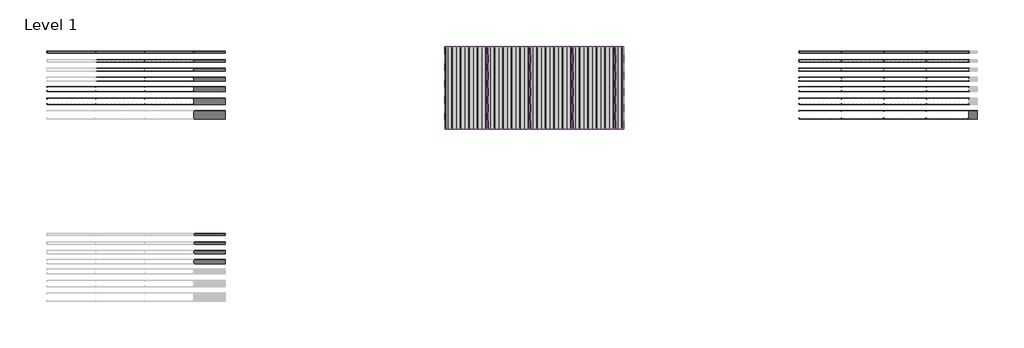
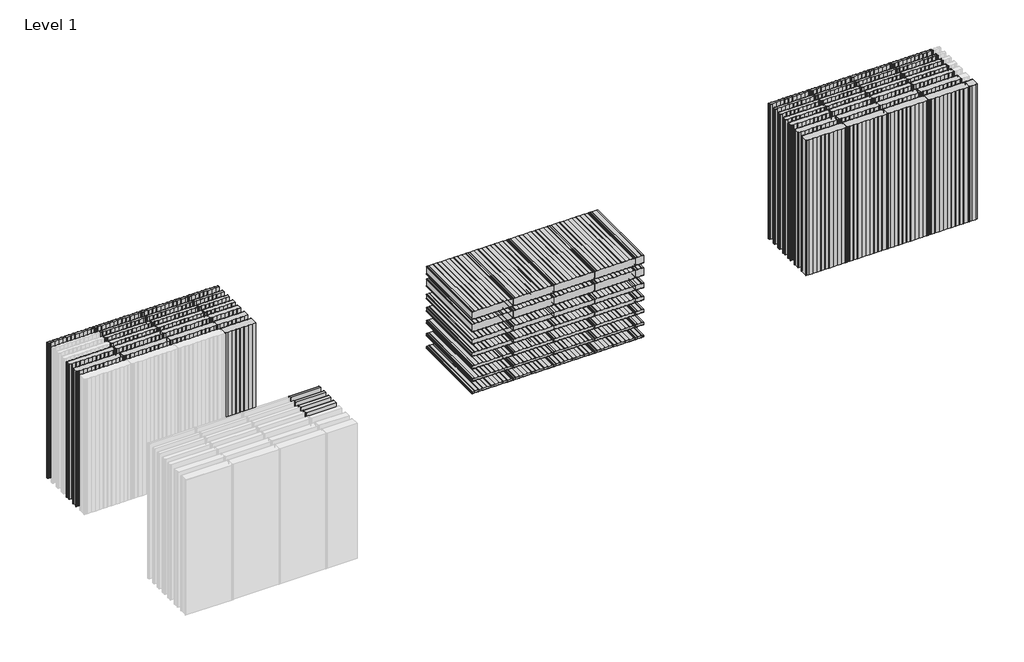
# One storey, part 3 of 4: 90 plates.
"""IFC4 building model written with IfcOpenShell, lengths in millimetres."""

from ifc_helpers import new_model, si_unit, origin, place, context, project, spatial, transform, mapped, element, save
from components import pm1_curtain_panel_flat_profile_af272a4a, pm1_curtain_panel_flat_profile_6bd34003, pm1_curtain_panel_flat_profile_68c07352, pm1_curtain_panel_flat_profile_2dd77cdb, pm1_curtain_panel_micro_ribbed_profile_733792b1, pm1_curtain_panel_micro_ribbed_profile_fbef5924, pm1_curtain_panel_micro_ribbed_profile_8efd6a00, pm1_curtain_panel_micro_ribbed_profile_3c703dab, pm1_curtain_panel_micro_ribbed_profile_60066d41, pm1_curtain_panel_micro_ribbed_profile_9ff300b7, pm1_curtain_panel_micro_ribbed_profile_67889fbb, pm1_curtain_panel_micro_ribbed_profile_119ddfce, pm1_curtain_panel_micro_ribbed_profile_324b2d25, pm1_curtain_panel_micro_ribbed_profile_bbc1dd99, pm1_curtain_panel_micro_ribbed_profile_832396b1, pm1_curtain_panel_micro_ribbed_profile_27170c41, pm1_curtain_panel_micro_ribbed_profile_ae8438e2, pmh_curtain_panel_micro_ribbed_profile_801c5321, pmh_curtain_panel_micro_ribbed_profile_5b7a0303, pmh_curtain_panel_micro_ribbed_profile_ddb1c74e, pmh_curtain_panel_micro_ribbed_profile_5782b2c2, pmh_curtain_panel_micro_ribbed_profile_d289c41b, pmh_curtain_panel_micro_ribbed_profile_9b3bcd1a, pmh_curtain_panel_micro_ribbed_profile_f908c7d4, pmh_curtain_panel_micro_ribbed_profile_7a617ee0, pmh_curtain_panel_micro_ribbed_profile_ae988a4b, pmh_curtain_panel_micro_ribbed_profile_f6724502, pmh_curtain_panel_micro_ribbed_profile_33a01f13, pmh_curtain_panel_micro_ribbed_profile_93146dc1, pmh_curtain_panel_micro_ribbed_profile_620c4970, pmh_curtain_panel_micro_ribbed_profile_8637e428, pmh_curtain_panel_micro_ribbed_profile_348d47a5, pmh_curtain_panel_micro_ribbed_profile_c90d581f, pmh_curtain_panel_micro_ribbed_profile_a05da92a, pmh_curtain_panel_micro_ribbed_profile_125e0a23, pmh_curtain_panel_micro_ribbed_profile_0eaa641f, pmh_curtain_panel_micro_ribbed_profile_aedbf398

model = new_model("IFC4")

# Units and contexts
model_context = context("Model", 3, world=origin())
ifc_project = project(units=[si_unit("LENGTHUNIT", "METRE", prefix="MILLI")], contexts=[model_context])

# Site, building, storey
site = spatial("IfcSite", under=ifc_project)
building = spatial("IfcBuilding", under=site)
storey = spatial("IfcBuildingStorey", under=building, Name="Level 1", Elevation=0.0)

# Plates
placement = place(None, origin())
pm1_curtain_panel_flat_profile_shape = pm1_curtain_panel_flat_profile_af272a4a(model_context)
element("IfcPlate", 1, ObjectType="PM1_Curtain-Panel_Flat-profile : ACH_PM1_Stone-wool-Panel_50M", at=placement, inside=storey, context=model_context, shape_type="MappedRepresentation", body=[
    mapped(pm1_curtain_panel_flat_profile_shape, transform((-7479.4012848, -7179.3131879, 0.0), x_axis=(1.0, 0.0, 0.0), y_axis=(0.0, 1.0, 0.0), z_axis=(0.0, 0.0, 1.0))),
])
pm1_curtain_panel_flat_profile_2_shape = pm1_curtain_panel_flat_profile_6bd34003(model_context)
element("IfcPlate", 2, ObjectType="PM1_Curtain-Panel_Flat-profile : ACH_PM1_Stone-wool-Panel_60M", at=placement, inside=storey, context=model_context, shape_type="MappedRepresentation", body=[
    mapped(pm1_curtain_panel_flat_profile_2_shape, transform((-7479.4132588, -7379.3131879, 0.0), x_axis=(1.0, 0.0, 0.0), y_axis=(0.0, 1.0, 0.0), z_axis=(0.0, 0.0, 1.0))),
])
pm1_curtain_panel_flat_profile_3_shape = pm1_curtain_panel_flat_profile_68c07352(model_context)
element("IfcPlate", 3, ObjectType="PM1_Curtain-Panel_Flat-profile : ACH_PM1_Stone-wool-Panel_80M", at=placement, inside=storey, context=model_context, shape_type="MappedRepresentation", body=[
    mapped(pm1_curtain_panel_flat_profile_3_shape, transform((-7479.4132588, -7579.3131879, 0.0), x_axis=(1.0, 0.0, 0.0), y_axis=(0.0, 1.0, 0.0), z_axis=(0.0, 0.0, 1.0))),
])
pm1_curtain_panel_flat_profile_4_shape = pm1_curtain_panel_flat_profile_2dd77cdb(model_context)
element("IfcPlate", 4, ObjectType="PM1_Curtain-Panel_Flat-profile : ACH_PM1_Stone-wool-Panel_100M", at=placement, inside=storey, context=model_context, shape_type="MappedRepresentation", body=[
    mapped(pm1_curtain_panel_flat_profile_4_shape, transform((-7479.4132588, -7795.1131879, 0.0), x_axis=(1.0, 0.0, 0.0), y_axis=(0.0, 1.0, 0.0), z_axis=(0.0, 0.0, 1.0))),
])
pm1_curtain_panel_micro_ribbed_profile_shape = pm1_curtain_panel_micro_ribbed_profile_733792b1(model_context)
element("IfcPlate", 5, ObjectType="PM1_Curtain-Panel_Micro-ribbed-profile : ACH_PM1_Stone-wool-Panel_50M", at=placement, inside=storey, context=model_context, shape_type="MappedRepresentation", body=[
    mapped(pm1_curtain_panel_micro_ribbed_profile_shape, transform((-10729.4132588, -2879.3131879, 0.0), x_axis=(1.0, 0.0, 0.0), y_axis=(0.0, 1.0, 0.0), z_axis=(0.0, 0.0, 1.0))),
])
element("IfcPlate", 6, ObjectType="PM1_Curtain-Panel_Micro-ribbed-profile : ACH_PM1_Stone-wool-Panel_50M", at=placement, inside=storey, context=model_context, shape_type="MappedRepresentation", body=[
    mapped(pm1_curtain_panel_micro_ribbed_profile_shape, transform((-9579.4132588, -2879.3131879, 0.0), x_axis=(1.0, 0.0, 0.0), y_axis=(0.0, 1.0, 0.0), z_axis=(0.0, 0.0, 1.0))),
])
element("IfcPlate", 7, ObjectType="PM1_Curtain-Panel_Micro-ribbed-profile : ACH_PM1_Stone-wool-Panel_50M", at=placement, inside=storey, context=model_context, shape_type="MappedRepresentation", body=[
    mapped(pm1_curtain_panel_micro_ribbed_profile_shape, transform((-8429.4132588, -2879.3131879, 0.0), x_axis=(1.0, 0.0, 0.0), y_axis=(0.0, 1.0, 0.0), z_axis=(0.0, 0.0, 1.0))),
])
pm1_curtain_panel_micro_ribbed_profile_2_shape = pm1_curtain_panel_micro_ribbed_profile_fbef5924(model_context)
element("IfcPlate", 8, ObjectType="PM1_Curtain-Panel_Micro-ribbed-profile : ACH_PM1_Stone-wool-Panel_50M", at=placement, inside=storey, context=model_context, shape_type="MappedRepresentation", body=[
    mapped(pm1_curtain_panel_micro_ribbed_profile_2_shape, transform((-7479.4012848, -2879.3131879, 0.0), x_axis=(1.0, 0.0, 0.0), y_axis=(0.0, 1.0, 0.0), z_axis=(0.0, 0.0, 1.0))),
])
pm1_curtain_panel_micro_ribbed_profile_3_shape = pm1_curtain_panel_micro_ribbed_profile_8efd6a00(model_context)
element("IfcPlate", 9, ObjectType="PM1_Curtain-Panel_Micro-ribbed-profile : ACH_PM1_Stone-wool-Panel_60M", at=placement, inside=storey, context=model_context, shape_type="MappedRepresentation", body=[
    mapped(pm1_curtain_panel_micro_ribbed_profile_3_shape, transform((-9579.4132588, -3079.3131879, 0.0), x_axis=(1.0, 0.0, 0.0), y_axis=(0.0, 1.0, 0.0), z_axis=(0.0, 0.0, 1.0))),
])
element("IfcPlate", 10, ObjectType="PM1_Curtain-Panel_Micro-ribbed-profile : ACH_PM1_Stone-wool-Panel_60M", at=placement, inside=storey, context=model_context, shape_type="MappedRepresentation", body=[
    mapped(pm1_curtain_panel_micro_ribbed_profile_3_shape, transform((-8429.4132588, -3079.3131879, 0.0), x_axis=(1.0, 0.0, 0.0), y_axis=(0.0, 1.0, 0.0), z_axis=(0.0, 0.0, 1.0))),
])
pm1_curtain_panel_micro_ribbed_profile_4_shape = pm1_curtain_panel_micro_ribbed_profile_3c703dab(model_context)
element("IfcPlate", 11, ObjectType="PM1_Curtain-Panel_Micro-ribbed-profile : ACH_PM1_Stone-wool-Panel_60M", at=placement, inside=storey, context=model_context, shape_type="MappedRepresentation", body=[
    mapped(pm1_curtain_panel_micro_ribbed_profile_4_shape, transform((-7479.4132588, -3079.3131879, 0.0), x_axis=(1.0, 0.0, 0.0), y_axis=(0.0, 1.0, 0.0), z_axis=(0.0, 0.0, 1.0))),
])
pm1_curtain_panel_micro_ribbed_profile_5_shape = pm1_curtain_panel_micro_ribbed_profile_60066d41(model_context)
element("IfcPlate", 12, ObjectType="PM1_Curtain-Panel_Micro-ribbed-profile : ACH_PM1_Stone-wool-Panel_80M", at=placement, inside=storey, context=model_context, shape_type="MappedRepresentation", body=[
    mapped(pm1_curtain_panel_micro_ribbed_profile_5_shape, transform((-9579.4132588, -3279.3131879, 0.0), x_axis=(1.0, 0.0, 0.0), y_axis=(0.0, 1.0, 0.0), z_axis=(0.0, 0.0, 1.0))),
])
element("IfcPlate", 13, ObjectType="PM1_Curtain-Panel_Micro-ribbed-profile : ACH_PM1_Stone-wool-Panel_80M", at=placement, inside=storey, context=model_context, shape_type="MappedRepresentation", body=[
    mapped(pm1_curtain_panel_micro_ribbed_profile_5_shape, transform((-8429.4132588, -3279.3131879, 0.0), x_axis=(1.0, 0.0, 0.0), y_axis=(0.0, 1.0, 0.0), z_axis=(0.0, 0.0, 1.0))),
])
pm1_curtain_panel_micro_ribbed_profile_6_shape = pm1_curtain_panel_micro_ribbed_profile_9ff300b7(model_context)
element("IfcPlate", 14, ObjectType="PM1_Curtain-Panel_Micro-ribbed-profile : ACH_PM1_Stone-wool-Panel_80M", at=placement, inside=storey, context=model_context, shape_type="MappedRepresentation", body=[
    mapped(pm1_curtain_panel_micro_ribbed_profile_6_shape, transform((-7479.4132588, -3279.3131879, 0.0), x_axis=(1.0, 0.0, 0.0), y_axis=(0.0, 1.0, 0.0), z_axis=(0.0, 0.0, 1.0))),
])
pm1_curtain_panel_micro_ribbed_profile_7_shape = pm1_curtain_panel_micro_ribbed_profile_67889fbb(model_context)
element("IfcPlate", 15, ObjectType="PM1_Curtain-Panel_Micro-ribbed-profile : ACH_PM1_Stone-wool-Panel_100M", at=placement, inside=storey, context=model_context, shape_type="MappedRepresentation", body=[
    mapped(pm1_curtain_panel_micro_ribbed_profile_7_shape, transform((-9579.4132588, -3495.1131879, 0.0), x_axis=(1.0, 0.0, 0.0), y_axis=(0.0, 1.0, 0.0), z_axis=(0.0, 0.0, 1.0))),
])
element("IfcPlate", 16, ObjectType="PM1_Curtain-Panel_Micro-ribbed-profile : ACH_PM1_Stone-wool-Panel_100M", at=placement, inside=storey, context=model_context, shape_type="MappedRepresentation", body=[
    mapped(pm1_curtain_panel_micro_ribbed_profile_7_shape, transform((-8429.4132588, -3495.1131879, 0.0), x_axis=(1.0, 0.0, 0.0), y_axis=(0.0, 1.0, 0.0), z_axis=(0.0, 0.0, 1.0))),
])
pm1_curtain_panel_micro_ribbed_profile_8_shape = pm1_curtain_panel_micro_ribbed_profile_119ddfce(model_context)
element("IfcPlate", 17, ObjectType="PM1_Curtain-Panel_Micro-ribbed-profile : ACH_PM1_Stone-wool-Panel_100M", at=placement, inside=storey, context=model_context, shape_type="MappedRepresentation", body=[
    mapped(pm1_curtain_panel_micro_ribbed_profile_8_shape, transform((-7479.4132588, -3495.1131879, 0.0), x_axis=(1.0, 0.0, 0.0), y_axis=(0.0, 1.0, 0.0), z_axis=(0.0, 0.0, 1.0))),
])
pm1_curtain_panel_micro_ribbed_profile_9_shape = pm1_curtain_panel_micro_ribbed_profile_324b2d25(model_context)
element("IfcPlate", 18, ObjectType="PM1_Curtain-Panel_Micro-ribbed-profile : ACH_PM1_Stone-wool-Panel_120M", at=placement, inside=storey, context=model_context, shape_type="MappedRepresentation", body=[
    mapped(pm1_curtain_panel_micro_ribbed_profile_9_shape, transform((-10729.4132588, -3715.1131879, 0.0), x_axis=(1.0, 0.0, 0.0), y_axis=(0.0, 1.0, 0.0), z_axis=(0.0, 0.0, 1.0))),
])
element("IfcPlate", 19, ObjectType="PM1_Curtain-Panel_Micro-ribbed-profile : ACH_PM1_Stone-wool-Panel_120M", at=placement, inside=storey, context=model_context, shape_type="MappedRepresentation", body=[
    mapped(pm1_curtain_panel_micro_ribbed_profile_9_shape, transform((-9579.4132588, -3715.1131879, 0.0), x_axis=(1.0, 0.0, 0.0), y_axis=(0.0, 1.0, 0.0), z_axis=(0.0, 0.0, 1.0))),
])
element("IfcPlate", 20, ObjectType="PM1_Curtain-Panel_Micro-ribbed-profile : ACH_PM1_Stone-wool-Panel_120M", at=placement, inside=storey, context=model_context, shape_type="MappedRepresentation", body=[
    mapped(pm1_curtain_panel_micro_ribbed_profile_9_shape, transform((-8429.4132588, -3715.1131879, 0.0), x_axis=(1.0, 0.0, 0.0), y_axis=(0.0, 1.0, 0.0), z_axis=(0.0, 0.0, 1.0))),
])
pm1_curtain_panel_micro_ribbed_profile_10_shape = pm1_curtain_panel_micro_ribbed_profile_bbc1dd99(model_context)
element("IfcPlate", 21, ObjectType="PM1_Curtain-Panel_Micro-ribbed-profile : ACH_PM1_Stone-wool-Panel_120M", at=placement, inside=storey, context=model_context, shape_type="MappedRepresentation", body=[
    mapped(pm1_curtain_panel_micro_ribbed_profile_10_shape, transform((-7479.4132588, -3715.1131879, 0.0), x_axis=(1.0, 0.0, 0.0), y_axis=(0.0, 1.0, 0.0), z_axis=(0.0, 0.0, 1.0))),
])
pm1_curtain_panel_micro_ribbed_profile_11_shape = pm1_curtain_panel_micro_ribbed_profile_832396b1(model_context)
element("IfcPlate", 22, ObjectType="PM1_Curtain-Panel_Micro-ribbed-profile : ACH_PM1_Stone-wool-Panel_150M", at=placement, inside=storey, context=model_context, shape_type="MappedRepresentation", body=[
    mapped(pm1_curtain_panel_micro_ribbed_profile_11_shape, transform((-10729.4132588, -3990.1131879, 0.0), x_axis=(1.0, 0.0, 0.0), y_axis=(0.0, 1.0, 0.0), z_axis=(0.0, 0.0, 1.0))),
])
element("IfcPlate", 23, ObjectType="PM1_Curtain-Panel_Micro-ribbed-profile : ACH_PM1_Stone-wool-Panel_150M", at=placement, inside=storey, context=model_context, shape_type="MappedRepresentation", body=[
    mapped(pm1_curtain_panel_micro_ribbed_profile_11_shape, transform((-9579.4132588, -3990.1131879, 0.0), x_axis=(1.0, 0.0, 0.0), y_axis=(0.0, 1.0, 0.0), z_axis=(0.0, 0.0, 1.0))),
])
element("IfcPlate", 24, ObjectType="PM1_Curtain-Panel_Micro-ribbed-profile : ACH_PM1_Stone-wool-Panel_150M", at=placement, inside=storey, context=model_context, shape_type="MappedRepresentation", body=[
    mapped(pm1_curtain_panel_micro_ribbed_profile_11_shape, transform((-8429.4132588, -3990.1131879, 0.0), x_axis=(1.0, 0.0, 0.0), y_axis=(0.0, 1.0, 0.0), z_axis=(0.0, 0.0, 1.0))),
])
pm1_curtain_panel_micro_ribbed_profile_12_shape = pm1_curtain_panel_micro_ribbed_profile_27170c41(model_context)
element("IfcPlate", 25, ObjectType="PM1_Curtain-Panel_Micro-ribbed-profile : ACH_PM1_Stone-wool-Panel_150M", at=placement, inside=storey, context=model_context, shape_type="MappedRepresentation", body=[
    mapped(pm1_curtain_panel_micro_ribbed_profile_12_shape, transform((-7479.4132588, -3990.1131879, 0.0), x_axis=(1.0, 0.0, 0.0), y_axis=(0.0, 1.0, 0.0), z_axis=(0.0, 0.0, 1.0))),
])
pm1_curtain_panel_micro_ribbed_profile_13_shape = pm1_curtain_panel_micro_ribbed_profile_ae8438e2(model_context)
element("IfcPlate", 26, ObjectType="PM1_Curtain-Panel_Micro-ribbed-profile : ACH_PM1_Stone-wool-Panel_200M", at=placement, inside=storey, context=model_context, shape_type="MappedRepresentation", body=[
    mapped(pm1_curtain_panel_micro_ribbed_profile_13_shape, transform((-7479.4132588, -4280.1131879, 0.0), x_axis=(1.0, 0.0, 0.0), y_axis=(0.0, 1.0, 0.0), z_axis=(0.0, 0.0, 1.0))),
])
pmh_curtain_panel_micro_ribbed_profile_shape = pmh_curtain_panel_micro_ribbed_profile_801c5321(model_context)
element("IfcPlate", 27, ObjectType="PMH_Curtain-Panel_Micro-ribbed-profile : ACH_PMH_Stone-wool-Panel_60M", at=placement, inside=storey, context=model_context, shape_type="MappedRepresentation", body=[
    mapped(pmh_curtain_panel_micro_ribbed_profile_shape, transform((6895.5867412, -3079.3131879, 0.0), x_axis=(1.0, 0.0, 0.0), y_axis=(0.0, 1.0, 0.0), z_axis=(0.0, 0.0, 1.0))),
])
element("IfcPlate", 28, ObjectType="PMH_Curtain-Panel_Micro-ribbed-profile : ACH_PMH_Stone-wool-Panel_60M", at=placement, inside=storey, context=model_context, shape_type="MappedRepresentation", body=[
    mapped(pmh_curtain_panel_micro_ribbed_profile_shape, transform((7895.5867412, -3079.3131879, 0.0), x_axis=(1.0, 0.0, 0.0), y_axis=(0.0, 1.0, 0.0), z_axis=(0.0, 0.0, 1.0))),
])
element("IfcPlate", 29, ObjectType="PMH_Curtain-Panel_Micro-ribbed-profile : ACH_PMH_Stone-wool-Panel_60M", at=placement, inside=storey, context=model_context, shape_type="MappedRepresentation", body=[
    mapped(pmh_curtain_panel_micro_ribbed_profile_shape, transform((8895.5867412, -3079.3131879, 0.0), x_axis=(1.0, 0.0, 0.0), y_axis=(0.0, 1.0, 0.0), z_axis=(0.0, 0.0, 1.0))),
])
element("IfcPlate", 30, ObjectType="PMH_Curtain-Panel_Micro-ribbed-profile : ACH_PMH_Stone-wool-Panel_60M", at=placement, inside=storey, context=model_context, shape_type="MappedRepresentation", body=[
    mapped(pmh_curtain_panel_micro_ribbed_profile_shape, transform((9895.5867412, -3079.3131879, 0.0), x_axis=(1.0, 0.0, 0.0), y_axis=(0.0, 1.0, 0.0), z_axis=(0.0, 0.0, 1.0))),
])
pmh_curtain_panel_micro_ribbed_profile_2_shape = pmh_curtain_panel_micro_ribbed_profile_5b7a0303(model_context)
element("IfcPlate", 31, ObjectType="PMH_Curtain-Panel_Micro-ribbed-profile : ACH_PMH_Stone-wool-Panel_80M", at=placement, inside=storey, context=model_context, shape_type="MappedRepresentation", body=[
    mapped(pmh_curtain_panel_micro_ribbed_profile_2_shape, transform((6895.5867412, -3279.3131879, 0.0), x_axis=(1.0, 0.0, 0.0), y_axis=(0.0, 1.0, 0.0), z_axis=(0.0, 0.0, 1.0))),
])
element("IfcPlate", 32, ObjectType="PMH_Curtain-Panel_Micro-ribbed-profile : ACH_PMH_Stone-wool-Panel_80M", at=placement, inside=storey, context=model_context, shape_type="MappedRepresentation", body=[
    mapped(pmh_curtain_panel_micro_ribbed_profile_2_shape, transform((7895.5867412, -3279.3131879, 0.0), x_axis=(1.0, 0.0, 0.0), y_axis=(0.0, 1.0, 0.0), z_axis=(0.0, 0.0, 1.0))),
])
element("IfcPlate", 33, ObjectType="PMH_Curtain-Panel_Micro-ribbed-profile : ACH_PMH_Stone-wool-Panel_80M", at=placement, inside=storey, context=model_context, shape_type="MappedRepresentation", body=[
    mapped(pmh_curtain_panel_micro_ribbed_profile_2_shape, transform((8895.5867412, -3279.3131879, 0.0), x_axis=(1.0, 0.0, 0.0), y_axis=(0.0, 1.0, 0.0), z_axis=(0.0, 0.0, 1.0))),
])
element("IfcPlate", 34, ObjectType="PMH_Curtain-Panel_Micro-ribbed-profile : ACH_PMH_Stone-wool-Panel_80M", at=placement, inside=storey, context=model_context, shape_type="MappedRepresentation", body=[
    mapped(pmh_curtain_panel_micro_ribbed_profile_2_shape, transform((9895.5867412, -3279.3131879, 0.0), x_axis=(1.0, 0.0, 0.0), y_axis=(0.0, 1.0, 0.0), z_axis=(0.0, 0.0, 1.0))),
])
pmh_curtain_panel_micro_ribbed_profile_3_shape = pmh_curtain_panel_micro_ribbed_profile_ddb1c74e(model_context)
element("IfcPlate", 35, ObjectType="PMH_Curtain-Panel_Micro-ribbed-profile : ACH_PMH_Stone-wool-Panel_50M", at=placement, inside=storey, context=model_context, shape_type="MappedRepresentation", body=[
    mapped(pmh_curtain_panel_micro_ribbed_profile_3_shape, transform((6895.5867412, -2879.3131879, 0.0), x_axis=(1.0, 0.0, 0.0), y_axis=(0.0, 1.0, 0.0), z_axis=(0.0, 0.0, 1.0))),
])
element("IfcPlate", 36, ObjectType="PMH_Curtain-Panel_Micro-ribbed-profile : ACH_PMH_Stone-wool-Panel_50M", at=placement, inside=storey, context=model_context, shape_type="MappedRepresentation", body=[
    mapped(pmh_curtain_panel_micro_ribbed_profile_3_shape, transform((7895.5867412, -2879.3131879, 0.0), x_axis=(1.0, 0.0, 0.0), y_axis=(0.0, 1.0, 0.0), z_axis=(0.0, 0.0, 1.0))),
])
element("IfcPlate", 37, ObjectType="PMH_Curtain-Panel_Micro-ribbed-profile : ACH_PMH_Stone-wool-Panel_50M", at=placement, inside=storey, context=model_context, shape_type="MappedRepresentation", body=[
    mapped(pmh_curtain_panel_micro_ribbed_profile_3_shape, transform((8895.5867412, -2879.3131879, 0.0), x_axis=(1.0, 0.0, 0.0), y_axis=(0.0, 1.0, 0.0), z_axis=(0.0, 0.0, 1.0))),
])
element("IfcPlate", 38, ObjectType="PMH_Curtain-Panel_Micro-ribbed-profile : ACH_PMH_Stone-wool-Panel_50M", at=placement, inside=storey, context=model_context, shape_type="MappedRepresentation", body=[
    mapped(pmh_curtain_panel_micro_ribbed_profile_3_shape, transform((9895.5867412, -2879.3131879, 0.0), x_axis=(1.0, 0.0, 0.0), y_axis=(0.0, 1.0, 0.0), z_axis=(0.0, 0.0, 1.0))),
])
pmh_curtain_panel_micro_ribbed_profile_4_shape = pmh_curtain_panel_micro_ribbed_profile_5782b2c2(model_context)
element("IfcPlate", 39, ObjectType="PMH_Curtain-Panel_Micro-ribbed-profile : ACH_PMH_Stone-wool-Panel_100M", at=placement, inside=storey, context=model_context, shape_type="MappedRepresentation", body=[
    mapped(pmh_curtain_panel_micro_ribbed_profile_4_shape, transform((6895.5867412, -3495.1131879, 0.0), x_axis=(1.0, 0.0, 0.0), y_axis=(0.0, 1.0, 0.0), z_axis=(0.0, 0.0, 1.0))),
])
element("IfcPlate", 40, ObjectType="PMH_Curtain-Panel_Micro-ribbed-profile : ACH_PMH_Stone-wool-Panel_100M", at=placement, inside=storey, context=model_context, shape_type="MappedRepresentation", body=[
    mapped(pmh_curtain_panel_micro_ribbed_profile_4_shape, transform((7895.5867412, -3495.1131879, 0.0), x_axis=(1.0, 0.0, 0.0), y_axis=(0.0, 1.0, 0.0), z_axis=(0.0, 0.0, 1.0))),
])
element("IfcPlate", 41, ObjectType="PMH_Curtain-Panel_Micro-ribbed-profile : ACH_PMH_Stone-wool-Panel_100M", at=placement, inside=storey, context=model_context, shape_type="MappedRepresentation", body=[
    mapped(pmh_curtain_panel_micro_ribbed_profile_4_shape, transform((8895.5867412, -3495.1131879, 0.0), x_axis=(1.0, 0.0, 0.0), y_axis=(0.0, 1.0, 0.0), z_axis=(0.0, 0.0, 1.0))),
])
element("IfcPlate", 42, ObjectType="PMH_Curtain-Panel_Micro-ribbed-profile : ACH_PMH_Stone-wool-Panel_100M", at=placement, inside=storey, context=model_context, shape_type="MappedRepresentation", body=[
    mapped(pmh_curtain_panel_micro_ribbed_profile_4_shape, transform((9895.5867412, -3495.1131879, 0.0), x_axis=(1.0, 0.0, 0.0), y_axis=(0.0, 1.0, 0.0), z_axis=(0.0, 0.0, 1.0))),
])
pmh_curtain_panel_micro_ribbed_profile_5_shape = pmh_curtain_panel_micro_ribbed_profile_d289c41b(model_context)
element("IfcPlate", 43, ObjectType="PMH_Curtain-Panel_Micro-ribbed-profile : ACH_PMH_Stone-wool-Panel_120M", at=placement, inside=storey, context=model_context, shape_type="MappedRepresentation", body=[
    mapped(pmh_curtain_panel_micro_ribbed_profile_5_shape, transform((6895.5867412, -3715.1131879, 0.0), x_axis=(1.0, 0.0, 0.0), y_axis=(0.0, 1.0, 0.0), z_axis=(0.0, 0.0, 1.0))),
])
element("IfcPlate", 44, ObjectType="PMH_Curtain-Panel_Micro-ribbed-profile : ACH_PMH_Stone-wool-Panel_120M", at=placement, inside=storey, context=model_context, shape_type="MappedRepresentation", body=[
    mapped(pmh_curtain_panel_micro_ribbed_profile_5_shape, transform((7895.5867412, -3715.1131879, 0.0), x_axis=(1.0, 0.0, 0.0), y_axis=(0.0, 1.0, 0.0), z_axis=(0.0, 0.0, 1.0))),
])
element("IfcPlate", 45, ObjectType="PMH_Curtain-Panel_Micro-ribbed-profile : ACH_PMH_Stone-wool-Panel_120M", at=placement, inside=storey, context=model_context, shape_type="MappedRepresentation", body=[
    mapped(pmh_curtain_panel_micro_ribbed_profile_5_shape, transform((8895.5867412, -3715.1131879, 0.0), x_axis=(1.0, 0.0, 0.0), y_axis=(0.0, 1.0, 0.0), z_axis=(0.0, 0.0, 1.0))),
])
element("IfcPlate", 46, ObjectType="PMH_Curtain-Panel_Micro-ribbed-profile : ACH_PMH_Stone-wool-Panel_120M", at=placement, inside=storey, context=model_context, shape_type="MappedRepresentation", body=[
    mapped(pmh_curtain_panel_micro_ribbed_profile_5_shape, transform((9895.5867412, -3715.1131879, 0.0), x_axis=(1.0, 0.0, 0.0), y_axis=(0.0, 1.0, 0.0), z_axis=(0.0, 0.0, 1.0))),
])
pmh_curtain_panel_micro_ribbed_profile_6_shape = pmh_curtain_panel_micro_ribbed_profile_9b3bcd1a(model_context)
element("IfcPlate", 47, ObjectType="PMH_Curtain-Panel_Micro-ribbed-profile : ACH_PMH_Stone-wool-Panel_150M", at=placement, inside=storey, context=model_context, shape_type="MappedRepresentation", body=[
    mapped(pmh_curtain_panel_micro_ribbed_profile_6_shape, transform((6895.5867412, -3990.1131879, 0.0), x_axis=(1.0, 0.0, 0.0), y_axis=(0.0, 1.0, 0.0), z_axis=(0.0, 0.0, 1.0))),
])
element("IfcPlate", 48, ObjectType="PMH_Curtain-Panel_Micro-ribbed-profile : ACH_PMH_Stone-wool-Panel_150M", at=placement, inside=storey, context=model_context, shape_type="MappedRepresentation", body=[
    mapped(pmh_curtain_panel_micro_ribbed_profile_6_shape, transform((7895.5867412, -3990.1131879, 0.0), x_axis=(1.0, 0.0, 0.0), y_axis=(0.0, 1.0, 0.0), z_axis=(0.0, 0.0, 1.0))),
])
element("IfcPlate", 49, ObjectType="PMH_Curtain-Panel_Micro-ribbed-profile : ACH_PMH_Stone-wool-Panel_150M", at=placement, inside=storey, context=model_context, shape_type="MappedRepresentation", body=[
    mapped(pmh_curtain_panel_micro_ribbed_profile_6_shape, transform((8895.5867412, -3990.1131879, 0.0), x_axis=(1.0, 0.0, 0.0), y_axis=(0.0, 1.0, 0.0), z_axis=(0.0, 0.0, 1.0))),
])
element("IfcPlate", 50, ObjectType="PMH_Curtain-Panel_Micro-ribbed-profile : ACH_PMH_Stone-wool-Panel_150M", at=placement, inside=storey, context=model_context, shape_type="MappedRepresentation", body=[
    mapped(pmh_curtain_panel_micro_ribbed_profile_6_shape, transform((9895.5867412, -3990.1131879, 0.0), x_axis=(1.0, 0.0, 0.0), y_axis=(0.0, 1.0, 0.0), z_axis=(0.0, 0.0, 1.0))),
])
pmh_curtain_panel_micro_ribbed_profile_7_shape = pmh_curtain_panel_micro_ribbed_profile_f908c7d4(model_context)
element("IfcPlate", 51, ObjectType="PMH_Curtain-Panel_Micro-ribbed-profile : ACH_PMH_Stone-wool-Panel_200M", at=placement, inside=storey, context=model_context, shape_type="MappedRepresentation", body=[
    mapped(pmh_curtain_panel_micro_ribbed_profile_7_shape, transform((6895.5867412, -4280.1131879, 0.0), x_axis=(1.0, 0.0, 0.0), y_axis=(0.0, 1.0, 0.0), z_axis=(0.0, 0.0, 1.0))),
])
element("IfcPlate", 52, ObjectType="PMH_Curtain-Panel_Micro-ribbed-profile : ACH_PMH_Stone-wool-Panel_200M", at=placement, inside=storey, context=model_context, shape_type="MappedRepresentation", body=[
    mapped(pmh_curtain_panel_micro_ribbed_profile_7_shape, transform((7895.5867412, -4280.1131879, 0.0), x_axis=(1.0, 0.0, 0.0), y_axis=(0.0, 1.0, 0.0), z_axis=(0.0, 0.0, 1.0))),
])
element("IfcPlate", 53, ObjectType="PMH_Curtain-Panel_Micro-ribbed-profile : ACH_PMH_Stone-wool-Panel_200M", at=placement, inside=storey, context=model_context, shape_type="MappedRepresentation", body=[
    mapped(pmh_curtain_panel_micro_ribbed_profile_7_shape, transform((8895.5867412, -4280.1131879, 0.0), x_axis=(1.0, 0.0, 0.0), y_axis=(0.0, 1.0, 0.0), z_axis=(0.0, 0.0, 1.0))),
])
element("IfcPlate", 54, ObjectType="PMH_Curtain-Panel_Micro-ribbed-profile : ACH_PMH_Stone-wool-Panel_200M", at=placement, inside=storey, context=model_context, shape_type="MappedRepresentation", body=[
    mapped(pmh_curtain_panel_micro_ribbed_profile_7_shape, transform((9895.5867412, -4280.1131879, 0.0), x_axis=(1.0, 0.0, 0.0), y_axis=(0.0, 1.0, 0.0), z_axis=(0.0, 0.0, 1.0))),
])
pmh_curtain_panel_micro_ribbed_profile_8_shape = pmh_curtain_panel_micro_ribbed_profile_7a617ee0(model_context)
element("IfcPlate", 55, ObjectType="PMH_Curtain-Panel_Micro-ribbed-profile : ACH_PMH_Stone-wool-Panel_200M", at=placement, inside=storey, context=model_context, shape_type="MappedRepresentation", body=[
    mapped(pmh_curtain_panel_micro_ribbed_profile_8_shape, transform((10495.5867412, -4280.1131879, 0.0), x_axis=(1.0, 0.0, 0.0), y_axis=(0.0, 1.0, 0.0), z_axis=(0.0, 0.0, 1.0))),
])
pmh_curtain_panel_micro_ribbed_profile_9_shape = pmh_curtain_panel_micro_ribbed_profile_ae988a4b(model_context)
element("IfcPlate", 56, ObjectType="PMH_Curtain-Panel_Micro-ribbed-profile : ACH_PMH_Stone-wool-Panel_50M", at=placement, inside=storey, context=model_context, shape_type="MappedRepresentation", body=[
    mapped(pmh_curtain_panel_micro_ribbed_profile_9_shape, transform((-1432.9364012, -4719.7144508, 0.0), x_axis=(1.0, 0.0, 0.0), y_axis=(0.0, 0.0, -1.0), z_axis=(0.0, 1.0, 0.0))),
])
element("IfcPlate", 57, ObjectType="PMH_Curtain-Panel_Micro-ribbed-profile : ACH_PMH_Stone-wool-Panel_50M", at=placement, inside=storey, context=model_context, shape_type="MappedRepresentation", body=[
    mapped(pmh_curtain_panel_micro_ribbed_profile_9_shape, transform((-432.9364012, -4719.7144508, 0.0), x_axis=(1.0, 0.0, 0.0), y_axis=(0.0, 0.0, -1.0), z_axis=(0.0, 1.0, 0.0))),
])
element("IfcPlate", 58, ObjectType="PMH_Curtain-Panel_Micro-ribbed-profile : ACH_PMH_Stone-wool-Panel_50M", at=placement, inside=storey, context=model_context, shape_type="MappedRepresentation", body=[
    mapped(pmh_curtain_panel_micro_ribbed_profile_9_shape, transform((567.0635988, -4719.7144508, 0.0), x_axis=(1.0, 0.0, 0.0), y_axis=(0.0, 0.0, -1.0), z_axis=(0.0, 1.0, 0.0))),
])
element("IfcPlate", 59, ObjectType="PMH_Curtain-Panel_Micro-ribbed-profile : ACH_PMH_Stone-wool-Panel_50M", at=placement, inside=storey, context=model_context, shape_type="MappedRepresentation", body=[
    mapped(pmh_curtain_panel_micro_ribbed_profile_9_shape, transform((1567.0635988, -4719.7144508, 0.0), x_axis=(1.0, 0.0, 0.0), y_axis=(0.0, 0.0, -1.0), z_axis=(0.0, 1.0, 0.0))),
])
pmh_curtain_panel_micro_ribbed_profile_10_shape = pmh_curtain_panel_micro_ribbed_profile_f6724502(model_context)
element("IfcPlate", 60, ObjectType="PMH_Curtain-Panel_Micro-ribbed-profile : ACH_PMH_Stone-wool-Panel_60M", at=placement, inside=storey, context=model_context, shape_type="MappedRepresentation", body=[
    mapped(pmh_curtain_panel_micro_ribbed_profile_10_shape, transform((-1432.9364012, -4719.7144508, 320.0), x_axis=(1.0, 0.0, 0.0), y_axis=(0.0, 0.0, -1.0), z_axis=(0.0, 1.0, 0.0))),
])
element("IfcPlate", 61, ObjectType="PMH_Curtain-Panel_Micro-ribbed-profile : ACH_PMH_Stone-wool-Panel_60M", at=placement, inside=storey, context=model_context, shape_type="MappedRepresentation", body=[
    mapped(pmh_curtain_panel_micro_ribbed_profile_10_shape, transform((-432.9364012, -4719.7144508, 320.0), x_axis=(1.0, 0.0, 0.0), y_axis=(0.0, 0.0, -1.0), z_axis=(0.0, 1.0, 0.0))),
])
element("IfcPlate", 62, ObjectType="PMH_Curtain-Panel_Micro-ribbed-profile : ACH_PMH_Stone-wool-Panel_60M", at=placement, inside=storey, context=model_context, shape_type="MappedRepresentation", body=[
    mapped(pmh_curtain_panel_micro_ribbed_profile_10_shape, transform((567.0635988, -4719.7144508, 320.0), x_axis=(1.0, 0.0, 0.0), y_axis=(0.0, 0.0, -1.0), z_axis=(0.0, 1.0, 0.0))),
])
element("IfcPlate", 63, ObjectType="PMH_Curtain-Panel_Micro-ribbed-profile : ACH_PMH_Stone-wool-Panel_60M", at=placement, inside=storey, context=model_context, shape_type="MappedRepresentation", body=[
    mapped(pmh_curtain_panel_micro_ribbed_profile_10_shape, transform((1567.0635988, -4719.7144508, 320.0), x_axis=(1.0, 0.0, 0.0), y_axis=(0.0, 0.0, -1.0), z_axis=(0.0, 1.0, 0.0))),
])
pmh_curtain_panel_micro_ribbed_profile_11_shape = pmh_curtain_panel_micro_ribbed_profile_33a01f13(model_context)
element("IfcPlate", 64, ObjectType="PMH_Curtain-Panel_Micro-ribbed-profile : ACH_PMH_Stone-wool-Panel_80M", at=placement, inside=storey, context=model_context, shape_type="MappedRepresentation", body=[
    mapped(pmh_curtain_panel_micro_ribbed_profile_11_shape, transform((-1432.9364012, -4719.7144508, 640.0), x_axis=(1.0, 0.0, 0.0), y_axis=(0.0, 0.0, -1.0), z_axis=(0.0, 1.0, 0.0))),
])
element("IfcPlate", 65, ObjectType="PMH_Curtain-Panel_Micro-ribbed-profile : ACH_PMH_Stone-wool-Panel_80M", at=placement, inside=storey, context=model_context, shape_type="MappedRepresentation", body=[
    mapped(pmh_curtain_panel_micro_ribbed_profile_11_shape, transform((-432.9364012, -4719.7144508, 640.0), x_axis=(1.0, 0.0, 0.0), y_axis=(0.0, 0.0, -1.0), z_axis=(0.0, 1.0, 0.0))),
])
element("IfcPlate", 66, ObjectType="PMH_Curtain-Panel_Micro-ribbed-profile : ACH_PMH_Stone-wool-Panel_80M", at=placement, inside=storey, context=model_context, shape_type="MappedRepresentation", body=[
    mapped(pmh_curtain_panel_micro_ribbed_profile_11_shape, transform((567.0635988, -4719.7144508, 640.0), x_axis=(1.0, 0.0, 0.0), y_axis=(0.0, 0.0, -1.0), z_axis=(0.0, 1.0, 0.0))),
])
element("IfcPlate", 67, ObjectType="PMH_Curtain-Panel_Micro-ribbed-profile : ACH_PMH_Stone-wool-Panel_80M", at=placement, inside=storey, context=model_context, shape_type="MappedRepresentation", body=[
    mapped(pmh_curtain_panel_micro_ribbed_profile_11_shape, transform((1567.0635988, -4719.7144508, 640.0), x_axis=(1.0, 0.0, 0.0), y_axis=(0.0, 0.0, -1.0), z_axis=(0.0, 1.0, 0.0))),
])
pmh_curtain_panel_micro_ribbed_profile_12_shape = pmh_curtain_panel_micro_ribbed_profile_93146dc1(model_context)
element("IfcPlate", 68, ObjectType="PMH_Curtain-Panel_Micro-ribbed-profile : ACH_PMH_Stone-wool-Panel_100M", at=placement, inside=storey, context=model_context, shape_type="MappedRepresentation", body=[
    mapped(pmh_curtain_panel_micro_ribbed_profile_12_shape, transform((-1432.9364012, -4719.7144508, 960.0), x_axis=(1.0, 0.0, 0.0), y_axis=(0.0, 0.0, -1.0), z_axis=(0.0, 1.0, 0.0))),
])
element("IfcPlate", 69, ObjectType="PMH_Curtain-Panel_Micro-ribbed-profile : ACH_PMH_Stone-wool-Panel_100M", at=placement, inside=storey, context=model_context, shape_type="MappedRepresentation", body=[
    mapped(pmh_curtain_panel_micro_ribbed_profile_12_shape, transform((-432.9364012, -4719.7144508, 960.0), x_axis=(1.0, 0.0, 0.0), y_axis=(0.0, 0.0, -1.0), z_axis=(0.0, 1.0, 0.0))),
])
element("IfcPlate", 70, ObjectType="PMH_Curtain-Panel_Micro-ribbed-profile : ACH_PMH_Stone-wool-Panel_100M", at=placement, inside=storey, context=model_context, shape_type="MappedRepresentation", body=[
    mapped(pmh_curtain_panel_micro_ribbed_profile_12_shape, transform((567.0635988, -4719.7144508, 960.0), x_axis=(1.0, 0.0, 0.0), y_axis=(0.0, 0.0, -1.0), z_axis=(0.0, 1.0, 0.0))),
])
element("IfcPlate", 71, ObjectType="PMH_Curtain-Panel_Micro-ribbed-profile : ACH_PMH_Stone-wool-Panel_100M", at=placement, inside=storey, context=model_context, shape_type="MappedRepresentation", body=[
    mapped(pmh_curtain_panel_micro_ribbed_profile_12_shape, transform((1567.0635988, -4719.7144508, 960.0), x_axis=(1.0, 0.0, 0.0), y_axis=(0.0, 0.0, -1.0), z_axis=(0.0, 1.0, 0.0))),
])
pmh_curtain_panel_micro_ribbed_profile_13_shape = pmh_curtain_panel_micro_ribbed_profile_620c4970(model_context)
element("IfcPlate", 72, ObjectType="PMH_Curtain-Panel_Micro-ribbed-profile : ACH_PMH_Stone-wool-Panel_120M", at=placement, inside=storey, context=model_context, shape_type="MappedRepresentation", body=[
    mapped(pmh_curtain_panel_micro_ribbed_profile_13_shape, transform((-1432.9364012, -4719.7144508, 1280.0), x_axis=(1.0, 0.0, 0.0), y_axis=(0.0, 0.0, -1.0), z_axis=(0.0, 1.0, 0.0))),
])
element("IfcPlate", 73, ObjectType="PMH_Curtain-Panel_Micro-ribbed-profile : ACH_PMH_Stone-wool-Panel_120M", at=placement, inside=storey, context=model_context, shape_type="MappedRepresentation", body=[
    mapped(pmh_curtain_panel_micro_ribbed_profile_13_shape, transform((-432.9364012, -4719.7144508, 1280.0), x_axis=(1.0, 0.0, 0.0), y_axis=(0.0, 0.0, -1.0), z_axis=(0.0, 1.0, 0.0))),
])
element("IfcPlate", 74, ObjectType="PMH_Curtain-Panel_Micro-ribbed-profile : ACH_PMH_Stone-wool-Panel_120M", at=placement, inside=storey, context=model_context, shape_type="MappedRepresentation", body=[
    mapped(pmh_curtain_panel_micro_ribbed_profile_13_shape, transform((567.0635988, -4719.7144508, 1280.0), x_axis=(1.0, 0.0, 0.0), y_axis=(0.0, 0.0, -1.0), z_axis=(0.0, 1.0, 0.0))),
])
element("IfcPlate", 75, ObjectType="PMH_Curtain-Panel_Micro-ribbed-profile : ACH_PMH_Stone-wool-Panel_120M", at=placement, inside=storey, context=model_context, shape_type="MappedRepresentation", body=[
    mapped(pmh_curtain_panel_micro_ribbed_profile_13_shape, transform((1567.0635988, -4719.7144508, 1280.0), x_axis=(1.0, 0.0, 0.0), y_axis=(0.0, 0.0, -1.0), z_axis=(0.0, 1.0, 0.0))),
])
pmh_curtain_panel_micro_ribbed_profile_14_shape = pmh_curtain_panel_micro_ribbed_profile_8637e428(model_context)
element("IfcPlate", 76, ObjectType="PMH_Curtain-Panel_Micro-ribbed-profile : ACH_PMH_Stone-wool-Panel_200M", at=placement, inside=storey, context=model_context, shape_type="MappedRepresentation", body=[
    mapped(pmh_curtain_panel_micro_ribbed_profile_14_shape, transform((-1432.9364012, -4719.7144508, 1600.0), x_axis=(1.0, 0.0, 0.0), y_axis=(0.0, 0.0, -1.0), z_axis=(0.0, 1.0, 0.0))),
])
element("IfcPlate", 77, ObjectType="PMH_Curtain-Panel_Micro-ribbed-profile : ACH_PMH_Stone-wool-Panel_200M", at=placement, inside=storey, context=model_context, shape_type="MappedRepresentation", body=[
    mapped(pmh_curtain_panel_micro_ribbed_profile_14_shape, transform((-432.9364012, -4719.7144508, 1600.0), x_axis=(1.0, 0.0, 0.0), y_axis=(0.0, 0.0, -1.0), z_axis=(0.0, 1.0, 0.0))),
])
element("IfcPlate", 78, ObjectType="PMH_Curtain-Panel_Micro-ribbed-profile : ACH_PMH_Stone-wool-Panel_200M", at=placement, inside=storey, context=model_context, shape_type="MappedRepresentation", body=[
    mapped(pmh_curtain_panel_micro_ribbed_profile_14_shape, transform((567.0635988, -4719.7144508, 1600.0), x_axis=(1.0, 0.0, 0.0), y_axis=(0.0, 0.0, -1.0), z_axis=(0.0, 1.0, 0.0))),
])
element("IfcPlate", 79, ObjectType="PMH_Curtain-Panel_Micro-ribbed-profile : ACH_PMH_Stone-wool-Panel_200M", at=placement, inside=storey, context=model_context, shape_type="MappedRepresentation", body=[
    mapped(pmh_curtain_panel_micro_ribbed_profile_14_shape, transform((1567.0635988, -4719.7144508, 1600.0), x_axis=(1.0, 0.0, 0.0), y_axis=(0.0, 0.0, -1.0), z_axis=(0.0, 1.0, 0.0))),
])
element("IfcPlate", 80, ObjectType="PMH_Curtain-Panel_Micro-ribbed-profile : ACH_PMH_Stone-wool-Panel_200M", at=placement, inside=storey, context=model_context, shape_type="MappedRepresentation", body=[
    mapped(pmh_curtain_panel_micro_ribbed_profile_14_shape, transform((-1432.9364012, -4719.7144508, 1920.0), x_axis=(1.0, 0.0, 0.0), y_axis=(0.0, 0.0, -1.0), z_axis=(0.0, 1.0, 0.0))),
])
element("IfcPlate", 81, ObjectType="PMH_Curtain-Panel_Micro-ribbed-profile : ACH_PMH_Stone-wool-Panel_200M", at=placement, inside=storey, context=model_context, shape_type="MappedRepresentation", body=[
    mapped(pmh_curtain_panel_micro_ribbed_profile_14_shape, transform((-432.9364012, -4719.7144508, 1920.0), x_axis=(1.0, 0.0, 0.0), y_axis=(0.0, 0.0, -1.0), z_axis=(0.0, 1.0, 0.0))),
])
element("IfcPlate", 82, ObjectType="PMH_Curtain-Panel_Micro-ribbed-profile : ACH_PMH_Stone-wool-Panel_200M", at=placement, inside=storey, context=model_context, shape_type="MappedRepresentation", body=[
    mapped(pmh_curtain_panel_micro_ribbed_profile_14_shape, transform((567.0635988, -4719.7144508, 1920.0), x_axis=(1.0, 0.0, 0.0), y_axis=(0.0, 0.0, -1.0), z_axis=(0.0, 1.0, 0.0))),
])
element("IfcPlate", 83, ObjectType="PMH_Curtain-Panel_Micro-ribbed-profile : ACH_PMH_Stone-wool-Panel_200M", at=placement, inside=storey, context=model_context, shape_type="MappedRepresentation", body=[
    mapped(pmh_curtain_panel_micro_ribbed_profile_14_shape, transform((1567.0635988, -4719.7144508, 1920.0), x_axis=(1.0, 0.0, 0.0), y_axis=(0.0, 0.0, -1.0), z_axis=(0.0, 1.0, 0.0))),
])
pmh_curtain_panel_micro_ribbed_profile_15_shape = pmh_curtain_panel_micro_ribbed_profile_348d47a5(model_context)
element("IfcPlate", 84, ObjectType="PMH_Curtain-Panel_Micro-ribbed-profile : ACH_PMH_Stone-wool-Panel_50M", at=placement, inside=storey, context=model_context, shape_type="MappedRepresentation", body=[
    mapped(pmh_curtain_panel_micro_ribbed_profile_15_shape, transform((2167.0755728, -4719.7144508, 0.0), x_axis=(1.0, 0.0, 0.0), y_axis=(0.0, 0.0, -1.0), z_axis=(0.0, 1.0, 0.0))),
])
pmh_curtain_panel_micro_ribbed_profile_16_shape = pmh_curtain_panel_micro_ribbed_profile_c90d581f(model_context)
element("IfcPlate", 85, ObjectType="PMH_Curtain-Panel_Micro-ribbed-profile : ACH_PMH_Stone-wool-Panel_60M", at=placement, inside=storey, context=model_context, shape_type="MappedRepresentation", body=[
    mapped(pmh_curtain_panel_micro_ribbed_profile_16_shape, transform((2167.0755728, -4719.7144508, 320.0), x_axis=(1.0, 0.0, 0.0), y_axis=(0.0, 0.0, -1.0), z_axis=(0.0, 1.0, 0.0))),
])
pmh_curtain_panel_micro_ribbed_profile_17_shape = pmh_curtain_panel_micro_ribbed_profile_a05da92a(model_context)
element("IfcPlate", 86, ObjectType="PMH_Curtain-Panel_Micro-ribbed-profile : ACH_PMH_Stone-wool-Panel_80M", at=placement, inside=storey, context=model_context, shape_type="MappedRepresentation", body=[
    mapped(pmh_curtain_panel_micro_ribbed_profile_17_shape, transform((2167.0755728, -4719.7144508, 640.0), x_axis=(1.0, 0.0, 0.0), y_axis=(0.0, 0.0, -1.0), z_axis=(0.0, 1.0, 0.0))),
])
pmh_curtain_panel_micro_ribbed_profile_18_shape = pmh_curtain_panel_micro_ribbed_profile_125e0a23(model_context)
element("IfcPlate", 87, ObjectType="PMH_Curtain-Panel_Micro-ribbed-profile : ACH_PMH_Stone-wool-Panel_100M", at=placement, inside=storey, context=model_context, shape_type="MappedRepresentation", body=[
    mapped(pmh_curtain_panel_micro_ribbed_profile_18_shape, transform((2167.0755728, -4719.7144508, 960.0), x_axis=(1.0, 0.0, 0.0), y_axis=(0.0, 0.0, -1.0), z_axis=(0.0, 1.0, 0.0))),
])
pmh_curtain_panel_micro_ribbed_profile_19_shape = pmh_curtain_panel_micro_ribbed_profile_0eaa641f(model_context)
element("IfcPlate", 88, ObjectType="PMH_Curtain-Panel_Micro-ribbed-profile : ACH_PMH_Stone-wool-Panel_120M", at=placement, inside=storey, context=model_context, shape_type="MappedRepresentation", body=[
    mapped(pmh_curtain_panel_micro_ribbed_profile_19_shape, transform((2167.0755728, -4719.7144508, 1280.0), x_axis=(1.0, 0.0, 0.0), y_axis=(0.0, 0.0, -1.0), z_axis=(0.0, 1.0, 0.0))),
])
pmh_curtain_panel_micro_ribbed_profile_20_shape = pmh_curtain_panel_micro_ribbed_profile_aedbf398(model_context)
element("IfcPlate", 89, ObjectType="PMH_Curtain-Panel_Micro-ribbed-profile : ACH_PMH_Stone-wool-Panel_200M", at=placement, inside=storey, context=model_context, shape_type="MappedRepresentation", body=[
    mapped(pmh_curtain_panel_micro_ribbed_profile_20_shape, transform((2167.0755728, -4719.7144508, 1600.0), x_axis=(1.0, 0.0, 0.0), y_axis=(0.0, 0.0, -1.0), z_axis=(0.0, 1.0, 0.0))),
])
element("IfcPlate", 90, ObjectType="PMH_Curtain-Panel_Micro-ribbed-profile : ACH_PMH_Stone-wool-Panel_200M", at=placement, inside=storey, context=model_context, shape_type="MappedRepresentation", body=[
    mapped(pmh_curtain_panel_micro_ribbed_profile_20_shape, transform((2167.0755728, -4719.7144508, 1920.0), x_axis=(1.0, 0.0, 0.0), y_axis=(0.0, 0.0, -1.0), z_axis=(0.0, 1.0, 0.0))),
])

save(model, "model.ifc")
